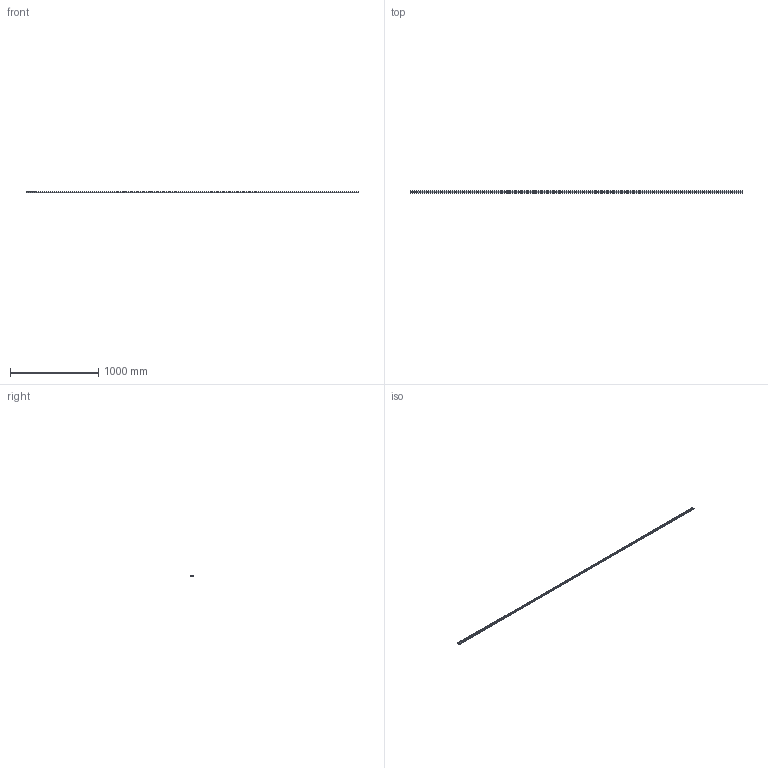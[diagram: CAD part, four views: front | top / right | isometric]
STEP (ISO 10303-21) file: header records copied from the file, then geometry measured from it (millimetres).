
FILE_DESCRIPTION( ( 'STEP AP214' ), '1' );
FILE_NAME( 'p:/temp/worker_22/temp/exporttempdir_3544_380_AX01n/format_1/TEN26-3760-CEN26-92.stp', '2020-05-08T18:55:54', ( 'License CC BY-ND 4.0' ), ( 'CADENAS' ), ' ', 'PARTsolutions', ' ' );
FILE_SCHEMA( ( 'AUTOMOTIVE_DESIGN { 1 0 10303 214 1 1 1 1 }' ) );
Length unit declared in the file: millimetre
Products named in the file (6): TEN26-3760-CEN26-92; _TEN 26-3760; _CEN26-92_1; _RLN26(11.2_M5); _RLA26(11.2_M5); _LAN-26
Assembly tree (8 placements, depth 2):
  TEN26-3760-CEN26-92
    _TEN 26-3760
    _CEN26-92_1
    _RLN26(11.2_M5)  x2
    _RLA26(11.2_M5)
    _LAN-26  x3
Bounding box: 3760 x 25.88 x 22 mm (x, y, z)
Volume: 401336.1 mm3; surface area: 340925 mm2
Topology: 8 solids, 8 shells, 280 faces, 642 edges, 405 vertices
Faces by surface type: plane 131, cylinder 116, cone 24, bspline 9
Full cylindrical faces by diameter (mm): 2.5 x2, 4.134 x5, 4.5 x3, 5 x6, 6.5 x47, 9.3 x3, 11.2 x6, 11.6 x6, 15.7 x6, 16.7 x6
Entity records: 7232 total; most frequent: CARTESIAN_POINT 1020, DIRECTION 994, ORIENTED_EDGE 722, AXIS2_PLACEMENT_3D 433, EDGE_LOOP 420, EDGE_CURVE 361, VERTEX_POINT 291, FACE_OUTER_BOUND 278
